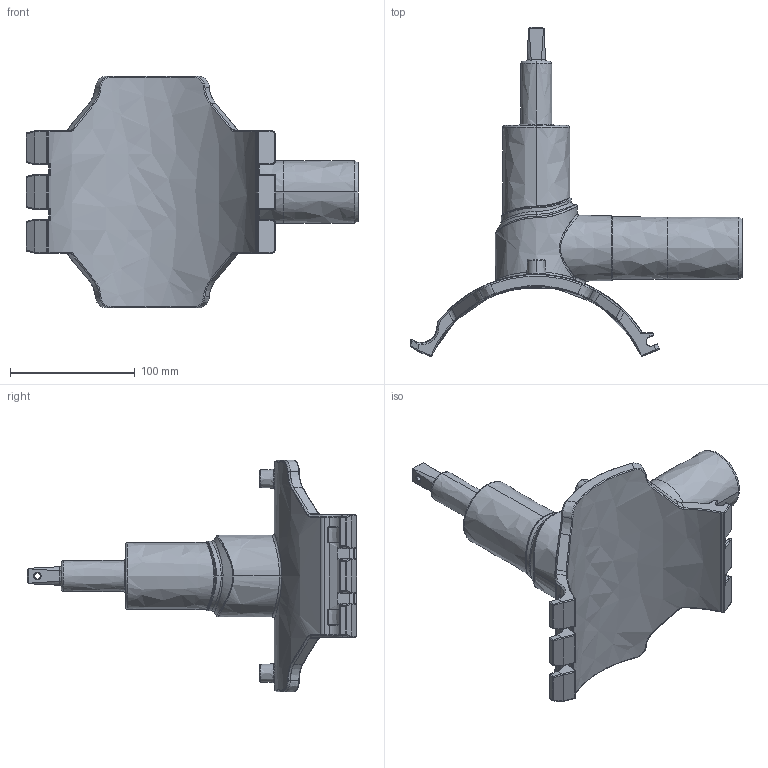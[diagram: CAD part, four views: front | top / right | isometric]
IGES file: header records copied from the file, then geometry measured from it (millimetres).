
Start section:  PTC IGES file: dav2_d180_50_01.igs
Global section: file name: dav2_d180_50_01.igs; native system: Creo Parametric by PTC Inc.; preprocessor: 2019030; author: demmerls; organization: Unknown; date: 20201127.095731; units: millimetre
Bounding box: 266.3 x 263.95 x 186 mm (x, y, z)
Surface area: 136165.4 mm2 (no closed solid volume)
Topology: 0 solids, 0 shells, 572 faces, 2782 edges, 2776 vertices
Faces by surface type: bspline 572
